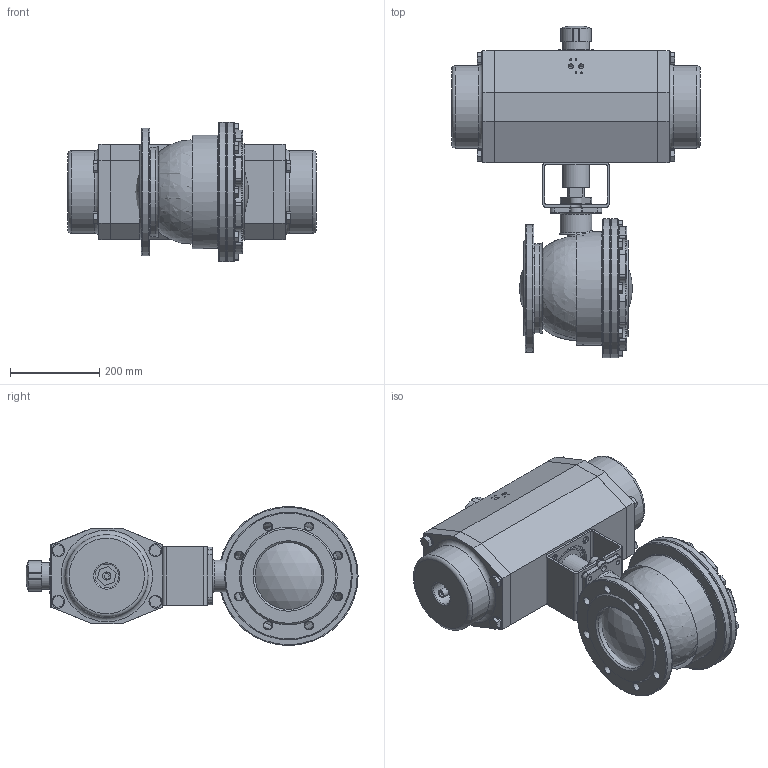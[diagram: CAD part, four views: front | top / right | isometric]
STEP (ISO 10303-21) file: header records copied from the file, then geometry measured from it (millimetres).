
FILE_DESCRIPTION (( 'STEP AP214' ), '1' );
FILE_NAME ('S15F DN150 +AP8.STEP', '2025-08-13T09:09:06', ( '' ), ( '' ), 'SwSTEP 2.0', 'SolidWorks 2021', '' );
FILE_SCHEMA (( 'AUTOMOTIVE_DESIGN' ));
Length unit declared in the file: millimetre
Products named in the file (7): YB150100f14f14-5-S15; Ball S15F DN150; YA3626D6079K100; Indicator; S15F DN150 +AP8; S15F KK DN150 PN16 bare stem_including ball; AP8_zonder indicator_Default<As Machined>
Assembly tree (6 placements, depth 2):
  S15F DN150 +AP8
    S15F KK DN150 PN16 bare stem_including ball
    Ball S15F DN150
    YB150100f14f14-5-S15
    YA3626D6079K100
    AP8_zonder indicator_Default<As Machined>
    Indicator
Bounding box: 557 x 744 x 312 mm (x, y, z)
Volume: 30193562.4 mm3; surface area: 1657347 mm2
Topology: 14 solids, 14 shells, 632 faces, 1519 edges, 954 vertices
Faces by surface type: plane 281, cylinder 179, torus 117, cone 41, sphere 8, bspline 6
Full cylindrical faces by diameter (mm): 4.2 x8, 10.2 x4, 11.445 x2, 14 x6, 17 x10, 18 x2, 19 x16, 29 x8, 38 x2, 53 x2, 55 x1, 60 x2, 69 x1, 71.5 x1, 80 x1, 81 x1, 89.5 x1, 90 x1, 100 x1, 104 x1, 150 x3, 185 x2, 199.667 x1, 216 x1, 254 x1, 263 x1, 286 x1, 312 x2
Entity records: 19111 total; most frequent: CARTESIAN_POINT 3388, DIRECTION 3145, ORIENTED_EDGE 2610, EDGE_CURVE 1305, AXIS2_PLACEMENT_3D 1220, VERTEX_POINT 891, EDGE_LOOP 880, FACE_OUTER_BOUND 734
